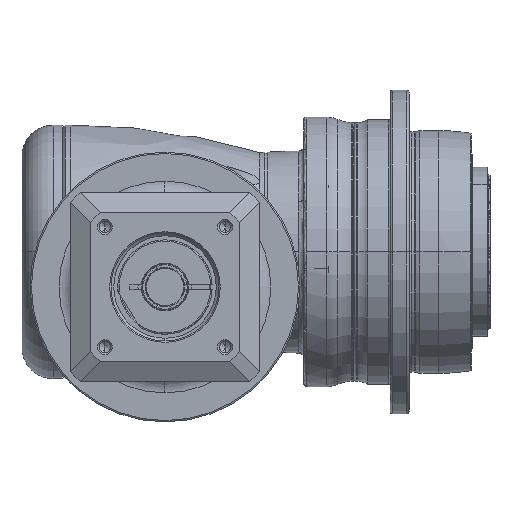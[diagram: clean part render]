
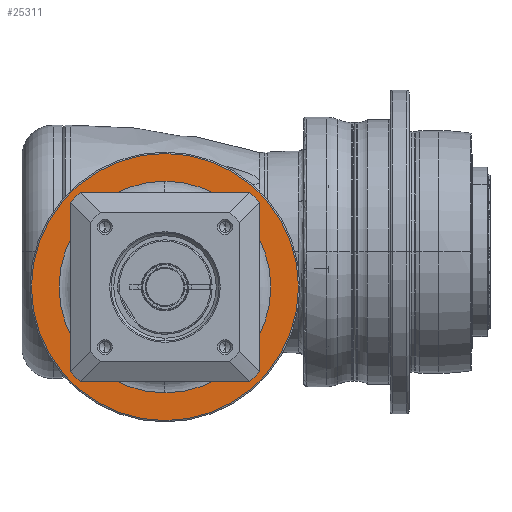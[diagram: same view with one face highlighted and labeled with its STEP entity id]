
A CAD part, front view. The second image highlights one B-rep face of the part: STEP entity #25311.
In plain terms, the highlighted planar face has unit normal (0, -1, 0) as drawn and (1, 0, 0) by its records, which use the part's own axes.
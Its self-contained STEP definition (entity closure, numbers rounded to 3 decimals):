
#23079=CARTESIAN_POINT('',(-9.,0.,0.));
#23080=DIRECTION('',(-1.,0.,0.));
#23081=DIRECTION('',(0.,-1.,0.));
#23082=AXIS2_PLACEMENT_3D('',#23079,#23080,#23081);
#23084=CARTESIAN_POINT('',(-9.,0.,0.));
#23085=DIRECTION('',(-1.,0.,0.));
#23086=DIRECTION('',(0.,1.,0.));
#23087=AXIS2_PLACEMENT_3D('',#23084,#23085,#23086);
#23089=CARTESIAN_POINT('',(-9.,0.,0.));
#23090=DIRECTION('',(-1.,0.,0.));
#23091=DIRECTION('',(0.,-1.,0.));
#23092=AXIS2_PLACEMENT_3D('',#23089,#23090,#23091);
#23094=CARTESIAN_POINT('',(-9.,0.,0.));
#23095=DIRECTION('',(-1.,0.,0.));
#23096=DIRECTION('',(0.,1.,0.));
#23097=AXIS2_PLACEMENT_3D('',#23094,#23095,#23096);
#23868=CARTESIAN_POINT('',(-9.,-49.5,0.));
#23869=CARTESIAN_POINT('',(-9.,49.5,0.));
#23870=VERTEX_POINT('',#23868);
#23871=VERTEX_POINT('',#23869);
#23950=CARTESIAN_POINT('',(-9.,-39.25,0.));
#23951=CARTESIAN_POINT('',(-9.,39.25,0.));
#23952=VERTEX_POINT('',#23950);
#23953=VERTEX_POINT('',#23951);
#25296=CARTESIAN_POINT('',(-9.,0.,0.));
#25297=DIRECTION('',(1.,0.,0.));
#25298=DIRECTION('',(0.,-1.,0.));
#25299=AXIS2_PLACEMENT_3D('',#25296,#25297,#25298);
#25300=PLANE('',#25299);
#25301=ORIENTED_EDGE('',*,*,#25228,.T.);
#25302=ORIENTED_EDGE('',*,*,#25213,.T.);
#25303=EDGE_LOOP('',(#25301,#25302));
#25304=FACE_OUTER_BOUND('',#25303,.F.);
#25306=ORIENTED_EDGE('',*,*,#25305,.F.);
#25308=ORIENTED_EDGE('',*,*,#25307,.F.);
#25309=EDGE_LOOP('',(#25306,#25308));
#25310=FACE_BOUND('',#25309,.F.);
#25311=ADVANCED_FACE('',(#25304,#25310),#25300,.T.);
#23083=CIRCLE('',#23082,39.25);
#23088=CIRCLE('',#23087,39.25);
#23093=CIRCLE('',#23092,49.5);
#23098=CIRCLE('',#23097,49.5);
#25213=EDGE_CURVE('',#23871,#23870,#23098,.T.);
#25228=EDGE_CURVE('',#23870,#23871,#23093,.T.);
#25305=EDGE_CURVE('',#23952,#23953,#23083,.T.);
#25307=EDGE_CURVE('',#23953,#23952,#23088,.T.);
